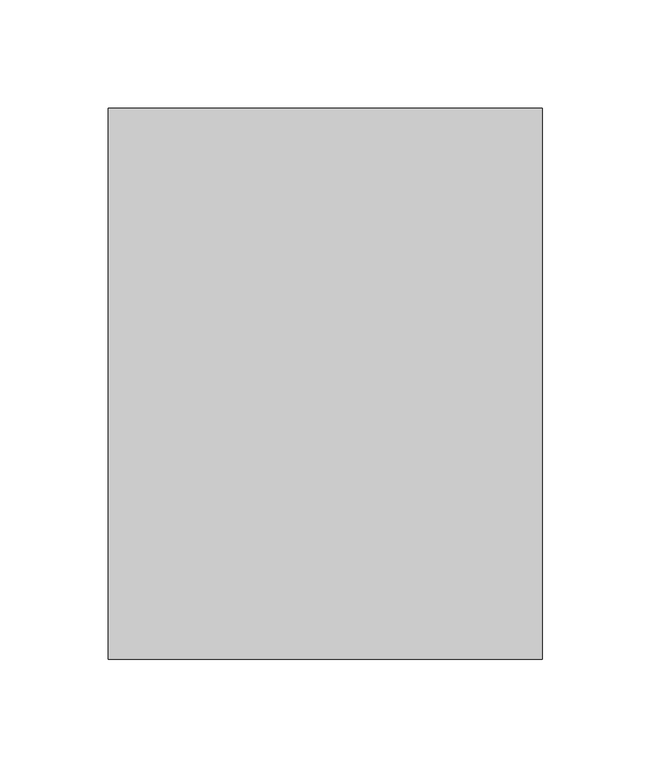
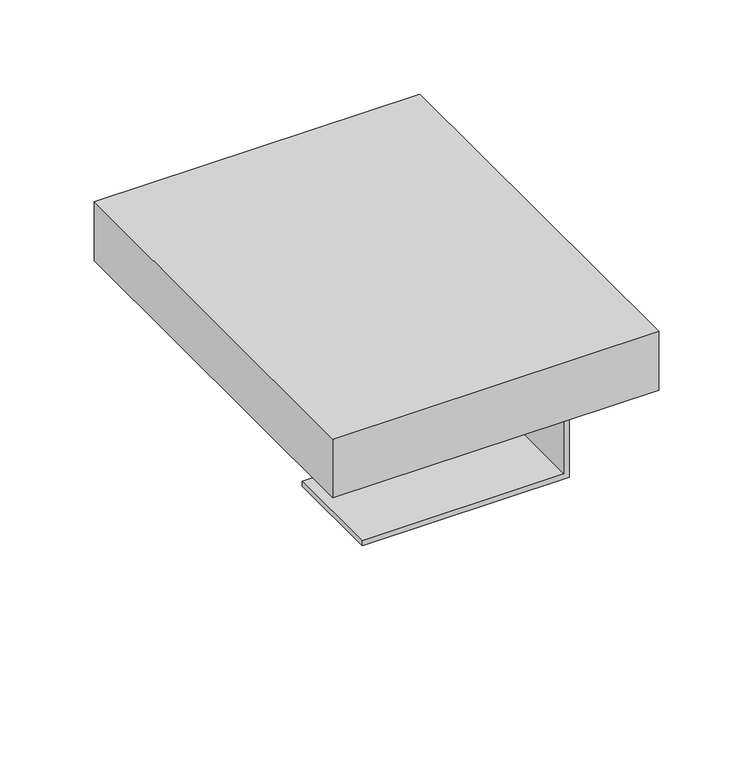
"""IFC4 building model written with IfcOpenShell, lengths in millimetres: furniture geometry, HermanMiller_Carts_CT734_SharpsContainerHolder : 9H x 3D."""

from ifc_helpers import new_model, si_unit, frame, origin, place, context, project, spatial, polyline, outline, extrude, faceted_brep, source, transform, mapped, element, save


def furniture_412fb93b(model_context):
    return source(origin(), model_context, "Body", "SolidModel", [
        extrude(outline(polyline([(-99.9451517, 127.0), (100.0798483, 127.0), (100.0798483, -127.0), (-99.9451517, -127.0), (-99.9451517, 127.0)])), frame((0.0, 0.0, 773.1125), z_axis=(0.0, 0.0, 1.0), x_axis=(1.0, 0.0, 0.0)), (0.0, 0.0, 1.0), 38.1),
        faceted_brep([(-99.9451517, 127.0, 811.2125), (-99.9451517, -127.0, 811.2125), (100.0798483, -127.0, 811.2125), (100.0798483, 127.0, 811.2125), (96.9048483, -123.825, 811.2125), (-96.7701517, -123.825, 811.2125), (-96.7701517, 123.825, 811.2125), (96.9048483, 123.825, 811.2125), (-99.9451517, 127.0, 773.1125), (100.0798483, 127.0, 773.1125), (100.0798483, 31.9084857, 773.1125), (96.9048483, 31.9084857, 773.1125), (96.9048483, 123.825, 773.1125), (-96.7701517, 123.825, 773.1125), (-96.7701517, -123.825, 773.1125), (96.9048483, -123.825, 773.1125), (96.9048483, -31.8004624, 773.1125), (100.0798483, -31.8004624, 773.1125), (100.0798483, -127.0, 773.1125), (-99.9451517, -127.0, 773.1125), (100.0798483, -31.8004624, 658.8125), (100.0798483, 31.9084857, 658.8125), (96.9048483, 31.9084857, 661.9875), (96.9048483, -31.8004624, 661.9875), (-26.9201517, 31.9084857, 658.8125), (-26.9201517, 31.9084857, 661.9875), (-26.9201517, -31.8004624, 661.9875), (-26.9201517, -31.8004624, 658.8125)], [[[0, 1, 2, 3], [4, 5, 6, 7]], [[8, 9, 10, 11, 12, 13, 14, 15, 16, 17, 18, 19]], [[1, 0, 8, 19]], [[2, 1, 19, 18]], [[3, 2, 18, 17, 20, 21, 10, 9]], [[0, 3, 9, 8]], [[5, 4, 15, 14]], [[6, 5, 14, 13]], [[7, 6, 13, 12]], [[4, 7, 12, 11, 22, 23, 16, 15]], [[21, 24, 25, 22, 11, 10]], [[20, 17, 16, 23, 26, 27]], [[24, 21, 20, 27]], [[25, 24, 27, 26]], [[22, 25, 26, 23]]]),
    ])


if __name__ == "__main__":
    model = new_model("IFC4")
    model_context = context("Model", 3, world=origin())
    ifc_project = project(units=[si_unit("LENGTHUNIT", "METRE", prefix="MILLI")], contexts=[model_context])
    site = spatial("IfcSite", under=ifc_project)
    building = spatial("IfcBuilding", under=site)
    placement = place(None, origin())
    furniture_shape = furniture_412fb93b(model_context)
    element("IfcFurniture", 1, ObjectType="HermanMiller_Carts_CT734_SharpsContainerHolder : 9H x 3D", at=placement, inside=building, context=model_context, shape_type="MappedRepresentation", body=[
        mapped(furniture_shape, transform((0.0, 0.0, 0.0), x_axis=(1.0, 0.0, 0.0), y_axis=(0.0, 1.0, 0.0), z_axis=(0.0, 0.0, 1.0))),
    ])
    save(model, "model.ifc")
